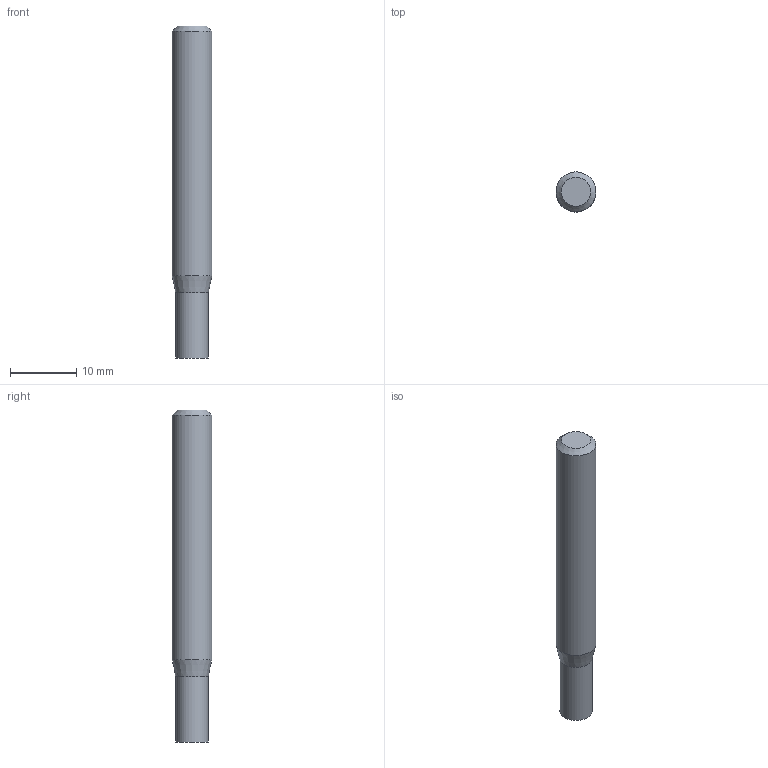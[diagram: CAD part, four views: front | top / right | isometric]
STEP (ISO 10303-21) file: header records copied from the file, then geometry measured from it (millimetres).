
FILE_DESCRIPTION((''),'2;1');
FILE_NAME('C:\Users\nsx150\AppData\Local\Temp\Mastercam 2021\E36A1X9CCL\TEMP.step','2023-04-21T15:13:05',(''),(''),'STEP Write','Mastercam 2021 ... CNC Software, Inc.','');
FILE_SCHEMA(('AUTOMOTIVE_DESIGN'));
Length unit declared in the file: millimetre
Products named in the file (1): None
Bounding box: 6 x 6 x 50 mm (x, y, z)
Volume: 1303.3 mm3; surface area: 980.3 mm2
Topology: 2 solids, 2 shells, 8 faces, 10 edges, 6 vertices
Faces by surface type: plane 4, cylinder 2, cone 2
Full cylindrical faces by diameter (mm): 4.9 x1, 6 x1
Entity records: 190 total; most frequent: DIRECTION 32, CARTESIAN_POINT 22, AXIS2_PLACEMENT_3D 16, ORIENTED_EDGE 12, EDGE_LOOP 12, STYLED_ITEM 11, ADVANCED_FACE 8, VERTEX_POINT 6
